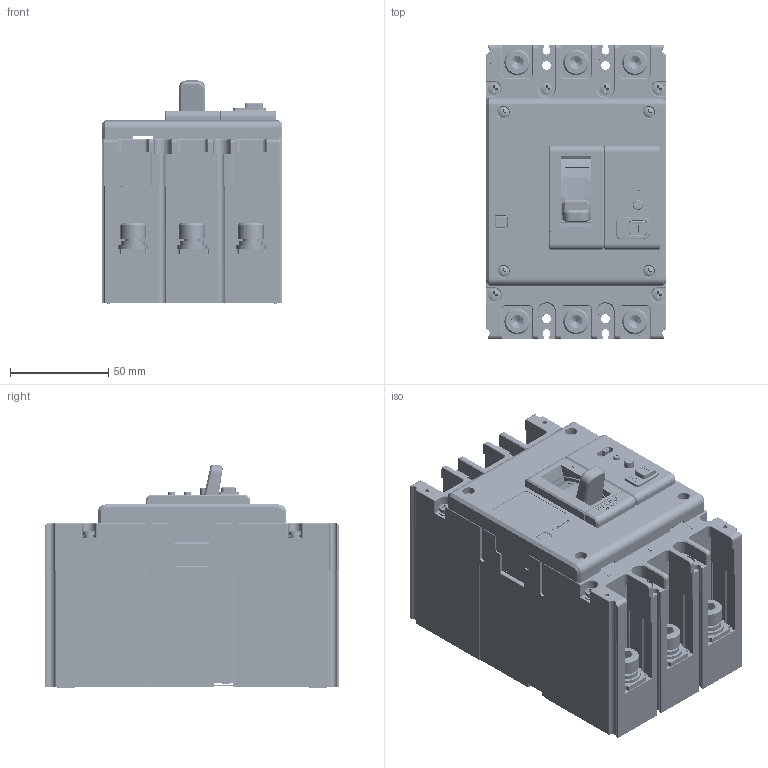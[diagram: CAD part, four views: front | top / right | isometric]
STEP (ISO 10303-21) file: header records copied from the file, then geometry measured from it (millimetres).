
FILE_DESCRIPTION((''),'2;1');
FILE_NAME('125-3_ASM','2025-04-14T',('yan01.huang'),(''),'PRO/ENGINEER BY PARAMETRIC TECHNOLOGY CORPORATION, 2017170','PRO/ENGINEER BY PARAMETRIC TECHNOLOGY CORPORATION, 2017170','');
FILE_SCHEMA(('CONFIG_CONTROL_DESIGN'));
Products named in the file (78): JZ_5024045300_1; GB_T809_M3_5X12_1; 5024045300_ASM_1_ASM; GB_T6170-M8_1; 8551018600_1; 8550079800_1; 5551030000_ASM_1_ASM; 8510020800_1; 5420215600_ASM_1_ASM; 5420215300_ASM_1_ASM; 5551107000_ASM_1_ASM; 5551110600_ASM_1_ASM; JUEYUANJIAOBU_1; 5551109200_ASM_1_ASM; 8510020900_1; 5420215700_ASM_1_ASM; 5420215400_ASM_1_ASM; 5551107100_ASM_1_ASM; 5551110700_ASM_1_ASM; 5551109300_ASM_1_ASM; 8510021000_1; 5420215800_ASM_1_ASM; 5420215500_ASM_1_ASM; 5551107200_ASM_1_ASM; 5551110800_ASM_1_ASM; 5551109400_ASM_1_ASM; 5551109500_ASM_1_ASM; GB_T823-M3_5X10_1; 7090300201_GB_T93_3_1; 8950019500_1; 5850004500_ASM_1_ASM; GB_T823-M3_5X30_1; 5850007200_ASM_1_ASM; 8570070600_1; 5295009900_ASM_1_ASM; 8742131700_1; 8742105300_1; 8750031500_1; 8156031900_1; 7010600401L_GB_T70_1_M8X16_1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
Assembly tree (138 placements, depth 10):
  125-3_ASM
    125-3_ASM_1_ASM
      5295009900_ASM_1_ASM
        5024045300_ASM_1_ASM
          JZ_5024045300_1
          GB_T809_M3_5X12_1  x6
        GB_T6170-M8_1  x6
        5551030000_ASM_1_ASM  x3
          8551018600_1
          8550079800_1
        5551109500_ASM_1_ASM
          5551109200_ASM_1_ASM
            5551110600_ASM_1_ASM
              5551107000_ASM_1_ASM
                5420215300_ASM_1_ASM
                  5420215600_ASM_1_ASM
            JUEYUANJIAOBU_1
          5551109300_ASM_1_ASM
            5551110700_ASM_1_ASM
              5551107100_ASM_1_ASM
                5420215400_ASM_1_ASM
                  5420215700_ASM_1_ASM
          5551109400_ASM_1_ASM
            5551110800_ASM_1_ASM
              5551107200_ASM_1_ASM
                5420215500_ASM_1_ASM
                  5420215800_ASM_1_ASM
        5850004500_ASM_1_ASM  x9
          GB_T823-M3_5X10_1
          7090300201_GB_T93_3_1
          8950019500_1
        5850007200_ASM_1_ASM  x4
          GB_T823-M3_5X30_1
          7090300201_GB_T93_3_1
          8950019500_1
        8570070600_1  x3
      8742131700_1  x3
      8742105300_1  x3
      8750031500_1  x3
      8156031900_1  x2
      5850008100_ASM_1_ASM  x6
        7010600401L_GB_T70_1_M8X16_1
        7090370701K_GB_T93_8_1
        GB_T97_4_8_1
      5253029000_ASM_1_ASM
        8253076900_1
      5619005900_ASM_2_ASM
        8288070300_1
        8253077000_1
        8205070000_1
      5315055000_ASM_1_ASM
        8315096900_1
        8282073000_AF0_1
        8253076800_1
      5850007200_ASM_1_ASM  x6
        GB_T823-M3_5X30_1
        7090300201_GB_T93_3_1
        8950019500_1
      5064047000_ASM_1
      5064047200_ASM_1_ASM
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Bounding box: 92 x 150 x 113.69 mm (x, y, z)
Volume: 431871 mm3; surface area: 361329.8 mm2
Topology: 130 solids, 178 shells, 10193 faces, 26454 edges, 16345 vertices
Faces by surface type: plane 4872, cylinder 3352, torus 442, sphere 435, cone 434, bspline 427, extrusion 231
Entity records: 297426 total; most frequent: CARTESIAN_POINT 91702, ORIENTED_EDGE 42950, DIRECTION 42723, EDGE_CURVE 21496, AXIS2_PLACEMENT_3D 14598, VECTOR 13527, VERTEX_POINT 13432, LINE 13296
